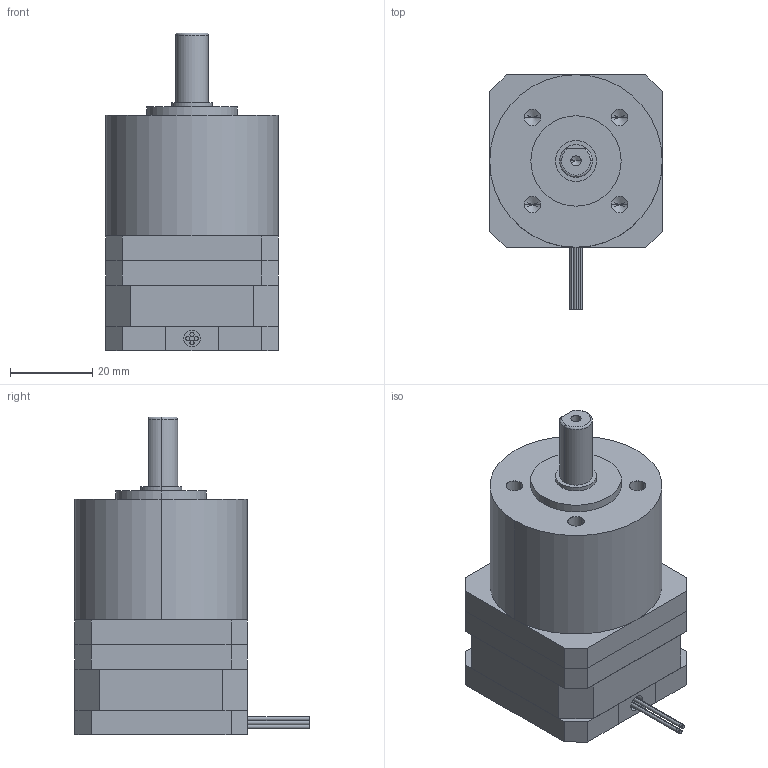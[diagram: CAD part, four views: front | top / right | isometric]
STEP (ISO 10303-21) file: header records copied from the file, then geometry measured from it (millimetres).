
FILE_DESCRIPTION (( 'STEP AP203' ), '1' );
FILE_NAME ('T42PG010-D05-0422.STEP', '2019-10-25T07:48:23', ( 'China' ), ( 'Home' ), 'SwSTEP 2.0', 'SolidWorks 2016', '' );
FILE_SCHEMA (( 'CONFIG_CONTROL_DESIGN' ));
Length unit declared in the file: millimetre
Products named in the file (1): T42PG010-D05-0422
Bounding box: 42 x 57 x 77.4 mm (x, y, z)
Volume: 89990.6 mm3; surface area: 23419.5 mm2
Topology: 4 solids, 4 shells, 109 faces, 251 edges, 153 vertices
Faces by surface type: plane 58, cylinder 30, cone 18, bspline 3
Entity records: 3132 total; most frequent: CARTESIAN_POINT 604, DIRECTION 522, ORIENTED_EDGE 482, EDGE_CURVE 241, AXIS2_PLACEMENT_3D 179, LINE 164, VECTOR 164, VERTEX_POINT 153
